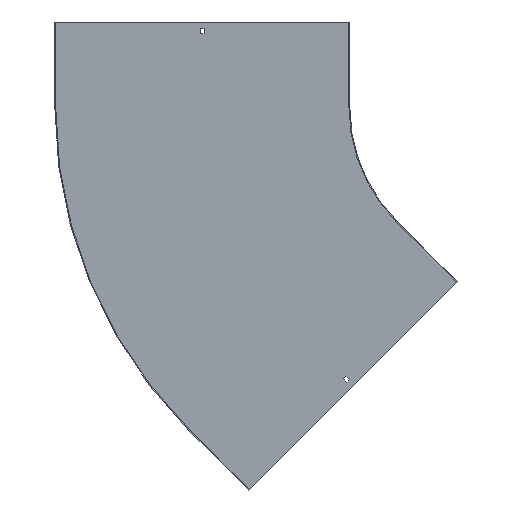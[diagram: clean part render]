
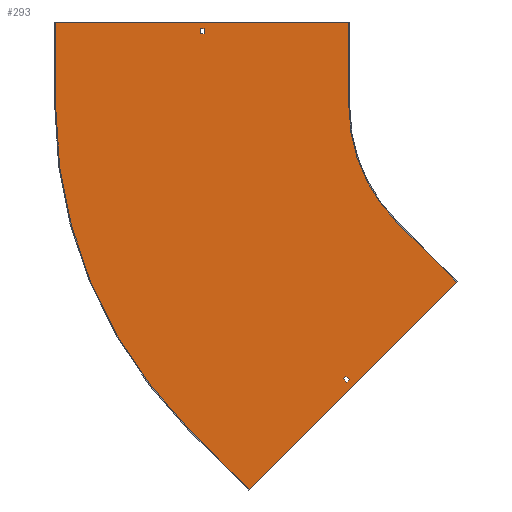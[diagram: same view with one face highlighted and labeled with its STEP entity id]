
A CAD part, front view. The second image highlights one B-rep face of the part: STEP entity #293.
In plain terms, the highlighted planar face has unit normal (0, -1, 0).
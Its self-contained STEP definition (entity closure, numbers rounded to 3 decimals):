
#3 = DIRECTION ( 'NONE',  ( 0.707, 0., 0.707 ) ) ;
#7 = LINE ( 'NONE', #209, #597 ) ;
#10 = ORIENTED_EDGE ( 'NONE', *, *, #38, .F. ) ;
#11 = CARTESIAN_POINT ( 'NONE',  ( 0., -1.5, 129. ) ) ;
#15 = VERTEX_POINT ( 'NONE', #105 ) ;
#17 = VERTEX_POINT ( 'NONE', #511 ) ;
#19 = ORIENTED_EDGE ( 'NONE', *, *, #137, .F. ) ;
#24 = VECTOR ( 'NONE', #769, 1000. ) ;
#38 = EDGE_CURVE ( 'NONE', #305, #570, #824, .T. ) ;
#46 = CARTESIAN_POINT ( 'NONE',  ( 91.217, -1.5, -91.217 ) ) ;
#49 = VECTOR ( 'NONE', #528, 1000. ) ;
#55 = LINE ( 'NONE', #718, #49 ) ;
#56 = CARTESIAN_POINT ( 'NONE',  ( -205.061, -1.5, -205.061 ) ) ;
#61 = AXIS2_PLACEMENT_3D ( 'NONE', #144, #416, #676 ) ;
#63 = LINE ( 'NONE', #464, #239 ) ;
#65 = FACE_BOUND ( 'NONE', #140, .T. ) ;
#68 = LINE ( 'NONE', #603, #679 ) ;
#72 = DIRECTION ( 'NONE',  ( 0., 0., 1. ) ) ;
#85 = CIRCLE ( 'NONE', #617, 290. ) ;
#88 = EDGE_CURVE ( 'NONE', #570, #94, #790, .T. ) ;
#94 = VERTEX_POINT ( 'NONE', #726 ) ;
#100 = DIRECTION ( 'NONE',  ( 0., 0., -1. ) ) ;
#101 = VERTEX_POINT ( 'NONE', #596 ) ;
#105 = CARTESIAN_POINT ( 'NONE',  ( -810., -1.5, 0. ) ) ;
#112 = EDGE_CURVE ( 'NONE', #101, #654, #126, .T. ) ;
#126 = LINE ( 'NONE', #533, #576 ) ;
#134 = VECTOR ( 'NONE', #72, 1000. ) ;
#137 = EDGE_CURVE ( 'NONE', #407, #291, #55, .T. ) ;
#140 = EDGE_LOOP ( 'NONE', ( #10, #168, #610, #595 ) ) ;
#141 = DIRECTION ( 'NONE',  ( 0., 1., 0. ) ) ;
#144 = CARTESIAN_POINT ( 'NONE',  ( 0., -1.5, 0. ) ) ;
#146 = EDGE_CURVE ( 'NONE', #845, #101, #848, .T. ) ;
#154 = CARTESIAN_POINT ( 'NONE',  ( -466.69, -1.5, -678.823 ) ) ;
#164 = CARTESIAN_POINT ( 'NONE',  ( 0., -1.5, 0. ) ) ;
#168 = ORIENTED_EDGE ( 'NONE', *, *, #211, .F. ) ;
#171 = CARTESIAN_POINT ( 'NONE',  ( -290., -1.5, 150. ) ) ;
#176 = EDGE_CURVE ( 'NONE', #238, #15, #447, .T. ) ;
#187 = CARTESIAN_POINT ( 'NONE',  ( -553.25, -1.5, 138. ) ) ;
#197 = DIRECTION ( 'NONE',  ( -0.707, 0., 0.707 ) ) ;
#202 = VECTOR ( 'NONE', #601, 1000. ) ;
#205 = CARTESIAN_POINT ( 'NONE',  ( -290., -1.5, 150. ) ) ;
#209 = CARTESIAN_POINT ( 'NONE',  ( 97.581, -1.5, -97.581 ) ) ;
#211 = EDGE_CURVE ( 'NONE', #739, #305, #7, .T. ) ;
#216 = ORIENTED_EDGE ( 'NONE', *, *, #365, .F. ) ;
#221 = VECTOR ( 'NONE', #427, 1000. ) ;
#226 = EDGE_CURVE ( 'NONE', #698, #405, #557, .T. ) ;
#230 = EDGE_CURVE ( 'NONE', #17, #238, #541, .T. ) ;
#238 = VERTEX_POINT ( 'NONE', #468 ) ;
#239 = VECTOR ( 'NONE', #335, 1000. ) ;
#263 = EDGE_CURVE ( 'NONE', #654, #781, #754, .T. ) ;
#264 = LINE ( 'NONE', #674, #134 ) ;
#269 = EDGE_LOOP ( 'NONE', ( #757, #356, #491, #332 ) ) ;
#287 = LINE ( 'NONE', #509, #24 ) ;
#289 = AXIS2_PLACEMENT_3D ( 'NONE', #312, #141, #805 ) ;
#290 = VECTOR ( 'NONE', #503, 1000. ) ;
#291 = VERTEX_POINT ( 'NONE', #479 ) ;
#293 = ADVANCED_FACE ( 'NONE', ( #65, #604, #615 ), #743, .T. ) ;
#294 = ORIENTED_EDGE ( 'NONE', *, *, #607, .F. ) ;
#305 = VERTEX_POINT ( 'NONE', #482 ) ;
#312 = CARTESIAN_POINT ( 'NONE',  ( 0., -1.5, 0. ) ) ;
#315 = DIRECTION ( 'NONE',  ( 0., 0., -1. ) ) ;
#330 = DIRECTION ( 'NONE',  ( 0., 0., 1. ) ) ;
#332 = ORIENTED_EDGE ( 'NONE', *, *, #621, .T. ) ;
#335 = DIRECTION ( 'NONE',  ( -0.707, 0., -0.707 ) ) ;
#340 = EDGE_CURVE ( 'NONE', #94, #739, #571, .T. ) ;
#351 = EDGE_LOOP ( 'NONE', ( #216, #362, #548, #631, #294, #19, #770, #826 ) ) ;
#356 = ORIENTED_EDGE ( 'NONE', *, *, #112, .T. ) ;
#362 = ORIENTED_EDGE ( 'NONE', *, *, #602, .F. ) ;
#365 = EDGE_CURVE ( 'NONE', #687, #698, #287, .T. ) ;
#377 = CARTESIAN_POINT ( 'NONE',  ( -553.25, -1.5, 129. ) ) ;
#405 = VERTEX_POINT ( 'NONE', #458 ) ;
#407 = VERTEX_POINT ( 'NONE', #56 ) ;
#416 = DIRECTION ( 'NONE',  ( 0., -1., 0. ) ) ;
#427 = DIRECTION ( 'NONE',  ( 0., 0., -1. ) ) ;
#447 = CIRCLE ( 'NONE', #289, 810. ) ;
#456 = DIRECTION ( 'NONE',  ( -0.707, 0., -0.707 ) ) ;
#458 = CARTESIAN_POINT ( 'NONE',  ( -290., -1.5, 0. ) ) ;
#464 = CARTESIAN_POINT ( 'NONE',  ( -97.934, -1.5, -310.066 ) ) ;
#466 = DIRECTION ( 'NONE',  ( 1., 0., 0. ) ) ;
#468 = CARTESIAN_POINT ( 'NONE',  ( -572.756, -1.5, -572.756 ) ) ;
#479 = CARTESIAN_POINT ( 'NONE',  ( -98.995, -1.5, -311.127 ) ) ;
#482 = CARTESIAN_POINT ( 'NONE',  ( -289.03, -1.5, -484.191 ) ) ;
#491 = ORIENTED_EDGE ( 'NONE', *, *, #263, .T. ) ;
#492 = CARTESIAN_POINT ( 'NONE',  ( -810., -1.5, 150. ) ) ;
#503 = DIRECTION ( 'NONE',  ( 0.707, 0., -0.707 ) ) ;
#509 = CARTESIAN_POINT ( 'NONE',  ( -811.5, -1.5, 150. ) ) ;
#511 = CARTESIAN_POINT ( 'NONE',  ( -466.69, -1.5, -678.823 ) ) ;
#528 = DIRECTION ( 'NONE',  ( 0.707, 0., -0.707 ) ) ;
#533 = CARTESIAN_POINT ( 'NONE',  ( -546.75, -1.5, 0. ) ) ;
#541 = LINE ( 'NONE', #154, #833 ) ;
#545 = CARTESIAN_POINT ( 'NONE',  ( -546.75, -1.5, 129. ) ) ;
#548 = ORIENTED_EDGE ( 'NONE', *, *, #176, .F. ) ;
#550 = CARTESIAN_POINT ( 'NONE',  ( -295.394, -1.5, -477.827 ) ) ;
#557 = LINE ( 'NONE', #205, #221 ) ;
#560 = VECTOR ( 'NONE', #456, 1000. ) ;
#570 = VERTEX_POINT ( 'NONE', #550 ) ;
#571 = LINE ( 'NONE', #639, #290 ) ;
#576 = VECTOR ( 'NONE', #315, 1000. ) ;
#595 = ORIENTED_EDGE ( 'NONE', *, *, #88, .F. ) ;
#596 = CARTESIAN_POINT ( 'NONE',  ( -546.75, -1.5, 138. ) ) ;
#597 = VECTOR ( 'NONE', #3, 1000. ) ;
#601 = DIRECTION ( 'NONE',  ( -1., 0., 0. ) ) ;
#602 = EDGE_CURVE ( 'NONE', #15, #687, #264, .T. ) ;
#603 = CARTESIAN_POINT ( 'NONE',  ( -553.25, -1.5, 0. ) ) ;
#604 = FACE_OUTER_BOUND ( 'NONE', #351, .T. ) ;
#607 = EDGE_CURVE ( 'NONE', #291, #17, #63, .T. ) ;
#610 = ORIENTED_EDGE ( 'NONE', *, *, #340, .F. ) ;
#615 = FACE_BOUND ( 'NONE', #269, .T. ) ;
#617 = AXIS2_PLACEMENT_3D ( 'NONE', #164, #823, #100 ) ;
#621 = EDGE_CURVE ( 'NONE', #781, #845, #68, .T. ) ;
#631 = ORIENTED_EDGE ( 'NONE', *, *, #230, .F. ) ;
#639 = CARTESIAN_POINT ( 'NONE',  ( -391.207, -1.5, -391.207 ) ) ;
#640 = VECTOR ( 'NONE', #466, 1000. ) ;
#654 = VERTEX_POINT ( 'NONE', #545 ) ;
#674 = CARTESIAN_POINT ( 'NONE',  ( -810., -1.5, 0. ) ) ;
#676 = DIRECTION ( 'NONE',  ( 0., 0., -1. ) ) ;
#679 = VECTOR ( 'NONE', #330, 1000. ) ;
#687 = VERTEX_POINT ( 'NONE', #492 ) ;
#696 = VECTOR ( 'NONE', #787, 1000. ) ;
#698 = VERTEX_POINT ( 'NONE', #171 ) ;
#700 = CARTESIAN_POINT ( 'NONE',  ( -293.626, -1.5, -488.788 ) ) ;
#718 = CARTESIAN_POINT ( 'NONE',  ( -205.061, -1.5, -205.061 ) ) ;
#726 = CARTESIAN_POINT ( 'NONE',  ( -299.99, -1.5, -482.424 ) ) ;
#739 = VERTEX_POINT ( 'NONE', #700 ) ;
#743 = PLANE ( 'NONE',  #61 ) ;
#754 = LINE ( 'NONE', #11, #202 ) ;
#757 = ORIENTED_EDGE ( 'NONE', *, *, #146, .T. ) ;
#759 = EDGE_CURVE ( 'NONE', #405, #407, #85, .T. ) ;
#760 = CARTESIAN_POINT ( 'NONE',  ( -386.611, -1.5, -386.611 ) ) ;
#769 = DIRECTION ( 'NONE',  ( 1., 0., 0. ) ) ;
#770 = ORIENTED_EDGE ( 'NONE', *, *, #759, .F. ) ;
#781 = VERTEX_POINT ( 'NONE', #377 ) ;
#787 = DIRECTION ( 'NONE',  ( -0.707, 0., 0.707 ) ) ;
#790 = LINE ( 'NONE', #46, #560 ) ;
#794 = CARTESIAN_POINT ( 'NONE',  ( 0., -1.5, 138. ) ) ;
#805 = DIRECTION ( 'NONE',  ( 0., 0., -1. ) ) ;
#823 = DIRECTION ( 'NONE',  ( 0., -1., 0. ) ) ;
#824 = LINE ( 'NONE', #760, #696 ) ;
#826 = ORIENTED_EDGE ( 'NONE', *, *, #226, .F. ) ;
#833 = VECTOR ( 'NONE', #197, 1000. ) ;
#845 = VERTEX_POINT ( 'NONE', #187 ) ;
#848 = LINE ( 'NONE', #794, #640 ) ;
